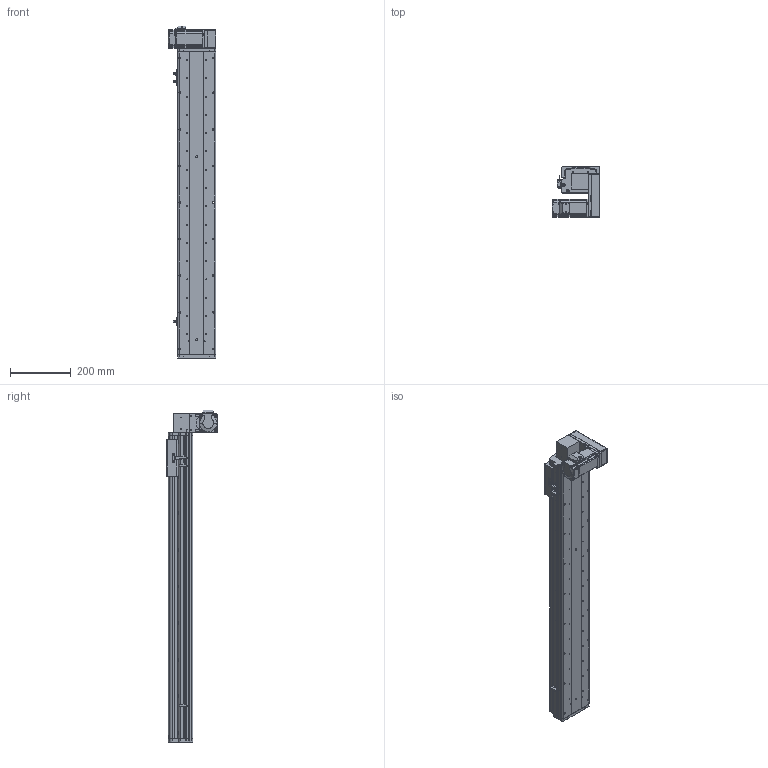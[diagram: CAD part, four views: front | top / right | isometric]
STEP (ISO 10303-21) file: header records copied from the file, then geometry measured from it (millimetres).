
FILE_DESCRIPTION (( 'STEP AP214' ), '1' );
FILE_NAME ('KSD125B-S800-MLD-CM.STEP', '2017-10-21T02:24:56', ( '微软用户' ), ( '微软中国' ), 'SwSTEP 2.0', 'SolidWorks 2014', '' );
FILE_SCHEMA (( 'AUTOMOTIVE_DESIGN' ));
Length unit declared in the file: millimetre
Products named in the file (17): KSD125B-S800-MLD-CM; 悵誘欶奻狟殏; 100宽马达安装板连板上下折丝杆同步带; HTPA30S3M150_A_H6_a佪裝蚚; HTPA30S3M150_A_H6_a萇儂蚚; 100宽马达安装板同步带左; KSD125模组800行程同步带-防尘盖; 125模组800行程同步带-底板; MHMD042G1CA_2_03; KSD125模组同步带-防撞垫2; 覜茼え68遵圉猾敕; U倰嫖萇假蚾璃; U倰嫖萇EEㄜSX672; KSD125模组同步带-防撞垫1; 前端板-125宽模组同步带; 125模组同步带-尾端板1; KSD125模组同步带-滑动座1
Assembly tree (20 placements, depth 2):
  KSD125B-S800-MLD-CM
    KSD125模组同步带-滑动座1
    125模组同步带-尾端板1
    前端板-125宽模组同步带
    KSD125模组同步带-防撞垫1
    U倰嫖萇EEㄜSX672  x3
    U倰嫖萇假蚾璃  x3
    覜茼え68遵圉猾敕
    KSD125模组同步带-防撞垫2
    MHMD042G1CA_2_03
    125模组800行程同步带-底板
    KSD125模组800行程同步带-防尘盖
    100宽马达安装板同步带左
    HTPA30S3M150_A_H6_a萇儂蚚
    HTPA30S3M150_A_H6_a佪裝蚚
    100宽马达安装板连板上下折丝杆同步带
    悵誘欶奻狟殏
Bounding box: 155 x 166.5 x 1089 mm (x, y, z)
Volume: 3390696.3 mm3; surface area: 1152956.8 mm2
Topology: 19 solids, 22 shells, 2289 faces, 6631 edges, 4382 vertices
Faces by surface type: cylinder 1436, plane 726, cone 105, bspline 22
Entity records: 81401 total; most frequent: CARTESIAN_POINT 16077, DIRECTION 12656, ORIENTED_EDGE 11782, EDGE_CURVE 5969, AXIS2_PLACEMENT_3D 4893, VERTEX_POINT 3974, LINE 2870, VECTOR 2870
